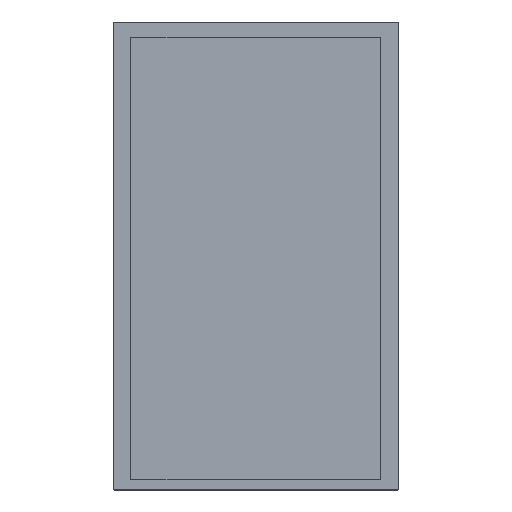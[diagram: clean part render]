
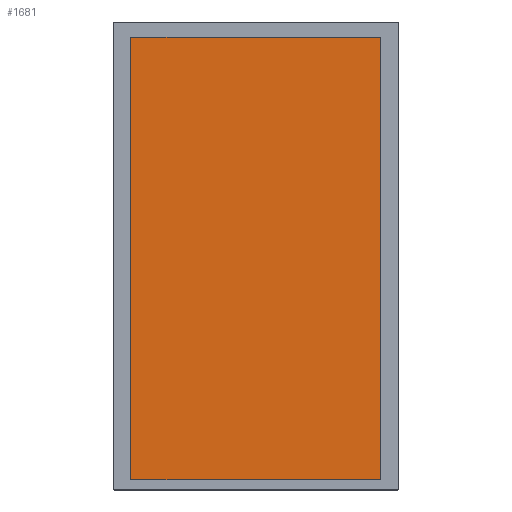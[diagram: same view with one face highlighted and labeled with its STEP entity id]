
A CAD part, top view. The second image highlights one B-rep face of the part: STEP entity #1681.
In plain terms, the highlighted planar face has unit normal (0, 0, 1).
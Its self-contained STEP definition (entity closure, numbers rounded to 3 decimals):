
#613=DIRECTION('',(1.,0.,0.));
#614=VECTOR('',#613,125.3);
#615=CARTESIAN_POINT('',(-62.65,-111.35,1.625));
#616=LINE('',#615,#614);
#617=DIRECTION('',(0.,-1.,0.));
#618=VECTOR('',#617,222.7);
#619=CARTESIAN_POINT('',(-62.65,111.35,1.625));
#620=LINE('',#619,#618);
#621=DIRECTION('',(-1.,0.,0.));
#622=VECTOR('',#621,125.3);
#623=CARTESIAN_POINT('',(62.65,111.35,1.625));
#624=LINE('',#623,#622);
#625=DIRECTION('',(0.,1.,0.));
#626=VECTOR('',#625,222.7);
#627=CARTESIAN_POINT('',(62.65,-111.35,1.625));
#628=LINE('',#627,#626);
#825=CARTESIAN_POINT('',(-62.65,-111.35,1.625));
#826=CARTESIAN_POINT('',(62.65,-111.35,1.625));
#827=VERTEX_POINT('',#825);
#828=VERTEX_POINT('',#826);
#829=CARTESIAN_POINT('',(62.65,111.35,1.625));
#830=VERTEX_POINT('',#829);
#831=CARTESIAN_POINT('',(-62.65,111.35,1.625));
#832=VERTEX_POINT('',#831);
#1670=CARTESIAN_POINT('',(71.75,118.6,1.625));
#1671=DIRECTION('',(0.,0.,1.));
#1672=DIRECTION('',(0.,1.,0.));
#1673=AXIS2_PLACEMENT_3D('',#1670,#1671,#1672);
#1674=PLANE('',#1673);
#1675=ORIENTED_EDGE('',*,*,#1622,.F.);
#1676=ORIENTED_EDGE('',*,*,#1637,.F.);
#1677=ORIENTED_EDGE('',*,*,#1651,.F.);
#1678=ORIENTED_EDGE('',*,*,#1664,.F.);
#1679=EDGE_LOOP('',(#1675,#1676,#1677,#1678));
#1680=FACE_OUTER_BOUND('',#1679,.F.);
#1622=EDGE_CURVE('',#827,#828,#616,.T.);
#1637=EDGE_CURVE('',#832,#827,#620,.T.);
#1651=EDGE_CURVE('',#830,#832,#624,.T.);
#1664=EDGE_CURVE('',#828,#830,#628,.T.);
#1681=ADVANCED_FACE('',(#1680),#1674,.T.);
